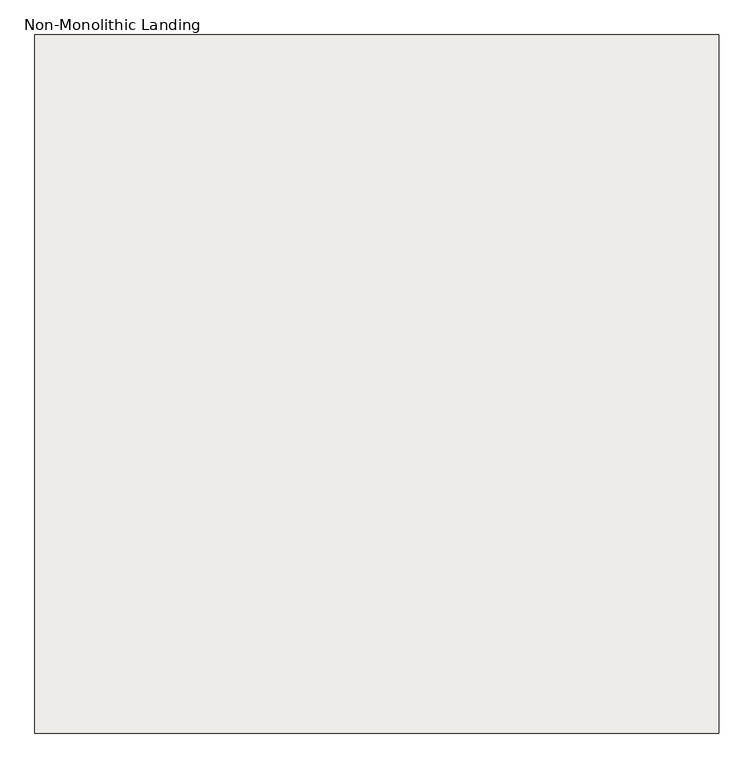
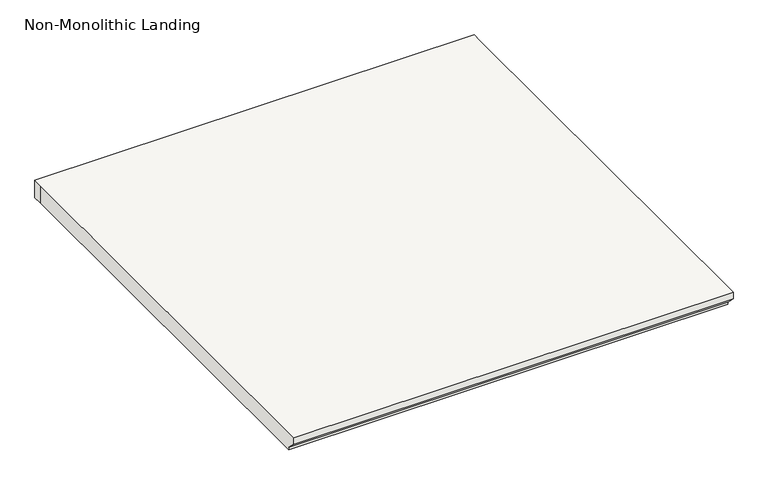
"""IFC4 building model written with IfcOpenShell, lengths in millimetres: slab geometry, Non-Monolithic Landing."""

from ifc_helpers import new_model, si_unit, origin, place, context, project, spatial, faceted_brep, source, transform, mapped, element, save


def non_monolithic_landing_5ceb7bfd(model_context):
    return source(origin(), model_context, "Body", "Brep", [
        faceted_brep([(-2479.317382, -871.5224648, 1504.95), (-2479.317382, -871.5224648, 1524.0), (-3698.517382, -871.5224648, 1524.0), (-3698.517382, -871.5224648, 1504.95), (-2479.317382, -846.1224648, 1479.55), (-3698.517382, -846.1224648, 1479.55), (-2479.317382, 347.6775352, 1524.0), (-2479.317382, 373.0775352, 1524.0), (-3698.517382, 373.0775352, 1524.0), (-3698.517382, 347.6775352, 1524.0), (-2479.317382, -846.1224648, 1473.2), (-3698.517382, -846.1224648, 1473.2), (-3698.517382, 347.6775352, 1473.2), (-3698.517382, 373.0775352, 1473.2), (-2479.317382, 373.0775352, 1473.2), (-2479.317382, 347.6775352, 1473.2)], [[[0, 1, 2, 3]], [[4, 0, 3, 5]], [[6, 7, 8, 9, 2, 1]], [[10, 11, 12, 13, 14, 15]], [[11, 10, 4, 5]], [[6, 1, 0, 4, 10, 15]], [[7, 6, 15, 14]], [[8, 7, 14, 13]], [[9, 8, 13, 12]], [[2, 9, 12, 11, 5, 3]]]),
    ])


if __name__ == "__main__":
    model = new_model("IFC4")
    model_context = context("Model", 3, world=origin())
    ifc_project = project(units=[si_unit("LENGTHUNIT", "METRE", prefix="MILLI")], contexts=[model_context])
    site = spatial("IfcSite", under=ifc_project)
    building = spatial("IfcBuilding", under=site)
    placement = place(None, origin())
    non_monolithic_landing_shape = non_monolithic_landing_5ceb7bfd(model_context)
    element("IfcSlab", 1, ObjectType="Non-Monolithic Landing", at=placement, inside=building, context=model_context, shape_type="MappedRepresentation", body=[
        mapped(non_monolithic_landing_shape, transform((0.0, 0.0, 0.0), x_axis=(1.0, 0.0, 0.0), y_axis=(0.0, 1.0, 0.0), z_axis=(0.0, 0.0, 1.0))),
    ])
    save(model, "model.ifc")
